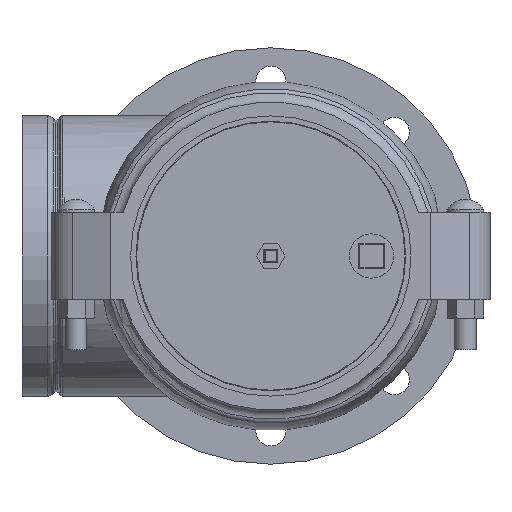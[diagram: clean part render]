
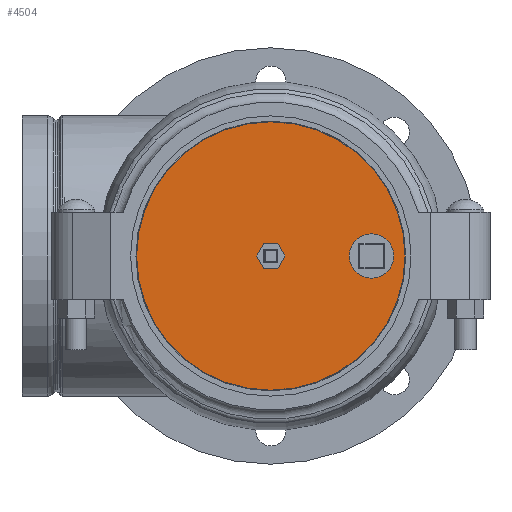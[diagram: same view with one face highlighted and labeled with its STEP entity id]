
A CAD part, left-side view. The second image highlights one B-rep face of the part: STEP entity #4504.
In plain terms, the highlighted planar face has unit normal (-1, 0, 0).
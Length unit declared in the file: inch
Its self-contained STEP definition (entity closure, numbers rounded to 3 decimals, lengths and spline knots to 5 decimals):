
#94=FACE_BOUND('',#1546,.T.);
#95=FACE_BOUND('',#1547,.T.);
#155=PLANE('',#5061);
#477=CIRCLE('',#5060,0.525);
#478=CIRCLE('',#5062,3.17157);
#479=CIRCLE('',#5063,3.17157);
#738=LINE('',#7627,#965);
#741=LINE('',#7632,#968);
#743=LINE('',#7636,#970);
#745=LINE('',#7640,#972);
#747=LINE('',#7644,#974);
#749=LINE('',#7647,#976);
#965=VECTOR('',#6093,0.3937);
#968=VECTOR('',#6098,0.3937);
#970=VECTOR('',#6102,0.3937);
#972=VECTOR('',#6106,0.3937);
#974=VECTOR('',#6110,0.3937);
#976=VECTOR('',#6114,0.3937);
#1307=FACE_OUTER_BOUND('',#1545,.T.);
#1545=EDGE_LOOP('',(#3440,#3441));
#1546=EDGE_LOOP('',(#3442,#3443,#3444,#3445,#3446,#3447));
#1547=EDGE_LOOP('',(#3448));
#1915=VERTEX_POINT('',#7625);
#1916=VERTEX_POINT('',#7626);
#1917=VERTEX_POINT('',#7631);
#1918=VERTEX_POINT('',#7635);
#1919=VERTEX_POINT('',#7639);
#1920=VERTEX_POINT('',#7643);
#1921=VERTEX_POINT('',#7649);
#1922=VERTEX_POINT('',#7653);
#1923=VERTEX_POINT('',#7654);
#2463=EDGE_CURVE('',#1915,#1916,#738,.T.);
#2466=EDGE_CURVE('',#1916,#1917,#741,.T.);
#2468=EDGE_CURVE('',#1917,#1918,#743,.T.);
#2470=EDGE_CURVE('',#1918,#1919,#745,.T.);
#2472=EDGE_CURVE('',#1919,#1920,#747,.T.);
#2474=EDGE_CURVE('',#1920,#1915,#749,.T.);
#2476=EDGE_CURVE('',#1921,#1921,#477,.T.);
#2477=EDGE_CURVE('',#1922,#1923,#478,.T.);
#2478=EDGE_CURVE('',#1923,#1922,#479,.T.);
#3440=ORIENTED_EDGE('',*,*,#2477,.F.);
#3441=ORIENTED_EDGE('',*,*,#2478,.F.);
#3442=ORIENTED_EDGE('',*,*,#2463,.T.);
#3443=ORIENTED_EDGE('',*,*,#2466,.T.);
#3444=ORIENTED_EDGE('',*,*,#2468,.T.);
#3445=ORIENTED_EDGE('',*,*,#2470,.T.);
#3446=ORIENTED_EDGE('',*,*,#2472,.T.);
#3447=ORIENTED_EDGE('',*,*,#2474,.T.);
#3448=ORIENTED_EDGE('',*,*,#2476,.T.);
#4504=ADVANCED_FACE('',(#1307,#94,#95),#155,.T.);
#5060=AXIS2_PLACEMENT_3D('',#7651,#6118,#6119);
#5061=AXIS2_PLACEMENT_3D('',#7652,#6120,#6121);
#5062=AXIS2_PLACEMENT_3D('',#7655,#6122,#6123);
#5063=AXIS2_PLACEMENT_3D('',#7656,#6124,#6125);
#6093=DIRECTION('',(0.,-1.,0.));
#6098=DIRECTION('',(0.,-0.5,-0.866));
#6102=DIRECTION('',(0.,0.5,-0.866));
#6106=DIRECTION('',(0.,1.,0.));
#6110=DIRECTION('',(0.,0.5,0.866));
#6114=DIRECTION('',(0.,-0.5,0.866));
#6118=DIRECTION('center_axis',(1.,0.,0.));
#6119=DIRECTION('ref_axis',(0.,0.,-1.));
#6120=DIRECTION('center_axis',(-1.,0.,0.));
#6121=DIRECTION('ref_axis',(0.,0.,1.));
#6122=DIRECTION('center_axis',(1.,0.,0.));
#6123=DIRECTION('ref_axis',(0.,0.,-1.));
#6124=DIRECTION('center_axis',(1.,0.,0.));
#6125=DIRECTION('ref_axis',(0.,0.,-1.));
#7625=CARTESIAN_POINT('',(-0.34,0.16599,0.2875));
#7626=CARTESIAN_POINT('',(-0.34,-0.16599,0.2875));
#7627=CARTESIAN_POINT('',(-0.34,1.50279,0.2875));
#7631=CARTESIAN_POINT('',(-0.34,-0.33198,0.));
#7632=CARTESIAN_POINT('',(-0.34,0.10597,0.75854));
#7635=CARTESIAN_POINT('',(-0.34,-0.16599,-0.2875));
#7636=CARTESIAN_POINT('',(-0.34,0.18896,-0.90229));
#7639=CARTESIAN_POINT('',(-0.34,0.16599,-0.2875));
#7640=CARTESIAN_POINT('',(-0.34,1.66878,-0.2875));
#7643=CARTESIAN_POINT('',(-0.34,0.33198,0.));
#7644=CARTESIAN_POINT('',(-0.34,0.68693,0.61479));
#7647=CARTESIAN_POINT('',(-0.34,0.60393,-0.47104));
#7649=CARTESIAN_POINT('',(-0.34,-2.38,0.525));
#7651=CARTESIAN_POINT('Origin',(-0.34,-2.38,0.));
#7652=CARTESIAN_POINT('Origin',(-0.34,3.17157,0.));
#7653=CARTESIAN_POINT('',(-0.34,3.17157,0.));
#7654=CARTESIAN_POINT('',(-0.34,-3.17157,0.));
#7655=CARTESIAN_POINT('Origin',(-0.34,0.,0.));
#7656=CARTESIAN_POINT('Origin',(-0.34,0.,0.));
